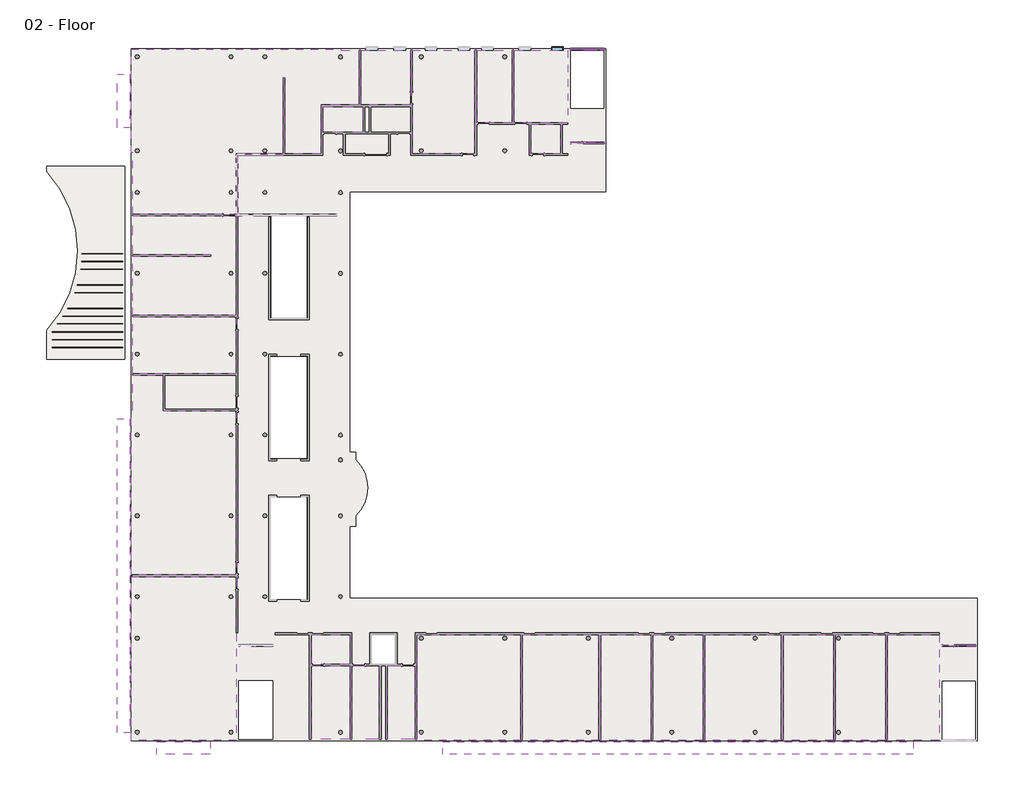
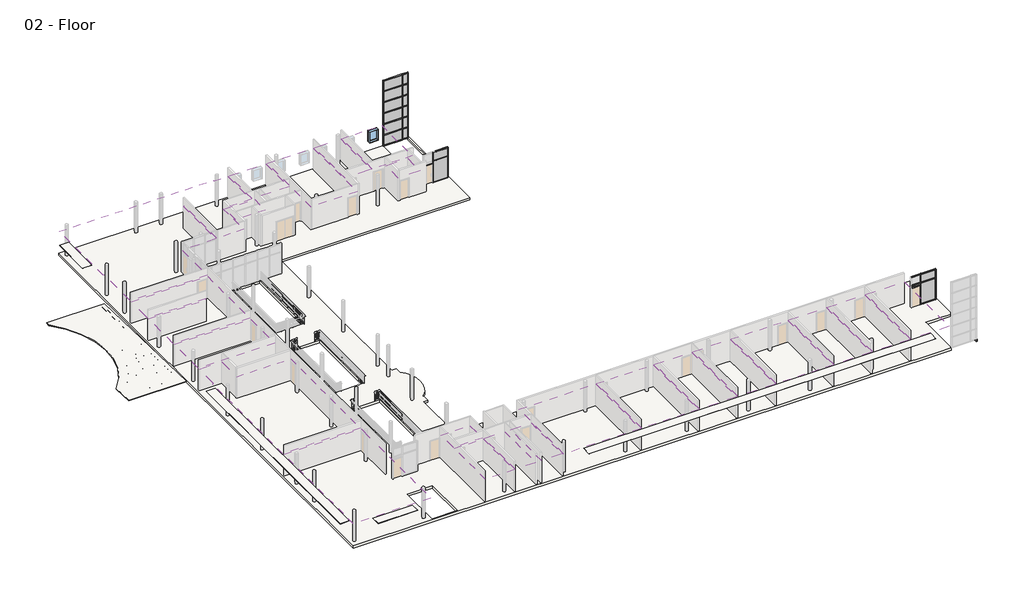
# One storey, part 4 of 5: 55 members, 23 coverings, 16 plates, 5 slabs, 1 beam, 1 roof, 1 window.
"""IFC4 building model written with IfcOpenShell, lengths in millimetres."""

from ifc_helpers import new_model, si_unit, point, frame, frame_2d, origin, place, context, project, spatial, polyline, circle_curve, ellipse_curve, trimmed, segment, composite_curve, outline, extrude, transform, mapped, element, save
from ifc_brep_helpers import plane_surface, revolved_surface, advanced_brep
from components import w_wide_flange_w12x26_481373e5, member_18e22e2d, member_9193c932, member_2b49869a, member_75074519, member_4f18b2ac, member_7a85b04f, member_0b7646a3, member_aaa03826, member_5d67b9fc, member_a50b3cda, member_c327c56d, member_410c6227, member_bcb6a316, member_7bd2cd2c, member_73c23c35, member_6186cc23, member_e7b2e991, member_6c34f49c, member_dff87739, member_76223ac8, system_panel_glazed_ac179f57, system_panel_glazed_576e2b42, system_panel_glazed_d796fc41, system_panel_glazed_17912afe, system_panel_glazed_bb2f95a6, system_panel_glazed_de38c793, system_panel_glazed_3fe504bb, system_panel_glazed_00df446d, window_dfee3f32

model = new_model("IFC4")

# Units and contexts
model_context = context("Model", 3, world=origin())
ifc_project = project(units=[si_unit("LENGTHUNIT", "METRE", prefix="MILLI")], contexts=[model_context])

# Site, building, storey
site = spatial("IfcSite", under=ifc_project)
building = spatial("IfcBuilding", under=site)
storey = spatial("IfcBuildingStorey", under=building, Name="02 - Floor", Elevation=3657.6)

# Beam
placement = place(None, origin())
w_wide_flange_w12x26_shape = w_wide_flange_w12x26_481373e5(model_context)
element("IfcBeam", 1, ObjectType="W-Wide Flange : W12X26", at=placement, inside=storey, context=model_context, shape_type="MappedRepresentation", body=[
    mapped(w_wide_flange_w12x26_shape, transform((-6018.8792524, 30981.9242436, 3911.1226133), x_axis=(0.0, -0.9995616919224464, 0.029604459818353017), y_axis=(1.0, 0.0, 0.0), z_axis=(0.0, 0.029604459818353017, 0.9995616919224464))),
])

# Coverings
element("IfcCovering", 2, ObjectType="2' x 2' ACT System", at=placement, inside=storey, context=model_context, shape_type="SweptSolid", body=[
    extrude(outline(polyline([(22086.2207476, 53724.1), (26963.0207476, 53724.1), (26963.0207476, 45672.3), (22086.2207476, 45672.3), (22086.2207476, 53724.1)])), frame((0.0, 0.0, 6096.0), z_axis=(0.0, 0.0, 1.0), x_axis=(1.0, 0.0, 0.0)), (0.0, 0.0, 1.0), 57.15),
])
element("IfcCovering", 3, ObjectType="2' x 2' ACT System", at=placement, inside=storey, context=model_context, shape_type="SweptSolid", body=[
    extrude(outline(polyline([(18073.0207476, 49478.3000002), (18073.0207476, 53724.1), (21959.2207476, 53724.1), (21959.2207476, 49478.3000002), (18073.0207476, 49478.3000002)])), frame((0.0, 0.0, 6096.0), z_axis=(0.0, 0.0, 1.0), x_axis=(1.0, 0.0, 0.0)), (0.0, 0.0, 1.0), 57.15),
])
element("IfcCovering", 4, ObjectType="2' x 2' ACT System", at=placement, inside=storey, context=model_context, shape_type="SweptSolid", body=[
    extrude(outline(polyline([(178.7207476, 53825.7), (16485.5207476, 53825.7), (16485.5207476, 53724.1), (17946.0207476, 53724.1), (17946.0207476, 49478.3000002), (14974.2207476, 49478.3000002), (14974.2207476, 45672.3), (12129.4207476, 45672.3), (12129.4207476, 51599.2000002), (12002.4207476, 51599.2000002), (12002.4207476, 45608.8), (8421.0207476, 45608.8), (8421.0207476, 40960.6), (280.3207476, 40960.6), (280.3207476, 45735.8), (178.7207476, 45735.8), (178.7207476, 53825.7)])), frame((0.0, 0.0, 6096.0), z_axis=(0.0, 0.0, 1.0), x_axis=(1.0, 0.0, 0.0)), (0.0, 0.0, 1.0), 57.15),
])
element("IfcCovering", 5, ObjectType="2' x 2' ACT System", at=placement, inside=storey, context=model_context, shape_type="SweptSolid", body=[
    extrude(outline(polyline([(6387.9410974, 37798.3), (280.3207476, 37798.3), (280.3207476, 40833.6), (8357.5207476, 40833.6), (8357.5207476, 33086.6), (280.3207476, 33086.6), (280.3207476, 37671.3), (6387.9410974, 37671.3), (6387.9410974, 37798.3)])), frame((0.0, 0.0, 6096.0), z_axis=(0.0, 0.0, 1.0), x_axis=(1.0, 0.0, 0.0)), (0.0, 0.0, 1.0), 57.15),
])
element("IfcCovering", 6, ObjectType="2' x 2' ACT System", at=placement, inside=storey, context=model_context, shape_type="SweptSolid", body=[
    extrude(outline(polyline([(8357.5207476, 28527.3), (280.3207476, 28527.3), (280.3207476, 32959.6), (8357.5207476, 32959.6), (8357.5207476, 28527.3)])), frame((0.0, 0.0, 6096.0), z_axis=(0.0, 0.0, 1.0), x_axis=(1.0, 0.0, 0.0)), (0.0, 0.0, 1.0), 57.15),
])
element("IfcCovering", 7, ObjectType="2' x 2' ACT System", at=placement, inside=storey, context=model_context, shape_type="SweptSolid", body=[
    extrude(outline(polyline([(178.7207476, 12855.5), (178.7207476, 25695.2), (280.3207476, 25695.2), (280.3207476, 28400.3), (2655.2207476, 28400.3), (2655.2207476, 25631.7), (8357.5207476, 25631.7), (8357.5207476, 12855.5), (178.7207476, 12855.5)])), frame((0.0, 0.0, 6096.0), z_axis=(0.0, 0.0, 1.0), x_axis=(1.0, 0.0, 0.0)), (0.0, 0.0, 1.0), 57.15),
])
element("IfcCovering", 8, ObjectType="2' x 2' ACT System", at=placement, inside=storey, context=model_context, shape_type="SweptSolid", body=[
    extrude(outline(polyline([(8357.5207476, -47.7), (178.7207476, -47.7), (178.7207476, 12728.5), (8357.5207476, 12728.5), (8357.5207476, 9477.3), (8357.5207476, -47.7)])), frame((0.0, 0.0, 6096.0), z_axis=(0.0, 0.0, 1.0), x_axis=(1.0, 0.0, 0.0)), (0.0, 0.0, 1.0), 57.15),
])
element("IfcCovering", 9, ObjectType="2' x 2' ACT System", at=placement, inside=storey, context=model_context, shape_type="SweptSolid", body=[
    extrude(outline(polyline([(17234.8207476, 5768.9), (17234.8207476, 53.9), (14186.8207476, 53.9), (14186.8207476, 5768.9), (17234.8207476, 5768.9)])), frame((0.0, 0.0, 6096.0), z_axis=(0.0, 0.0, 1.0), x_axis=(1.0, 0.0, 0.0)), (0.0, 0.0, 1.0), 57.15),
])
element("IfcCovering", 10, ObjectType="2' x 2' ACT System", at=placement, inside=storey, context=model_context, shape_type="SweptSolid", body=[
    extrude(outline(polyline([(14186.8207476, 8207.3), (17234.8207476, 8207.3), (17234.8207476, 5895.9), (14186.8207476, 5895.9), (14186.8207476, 8207.3)])), frame((0.0, 0.0, 6096.0), z_axis=(0.0, 0.0, 1.0), x_axis=(1.0, 0.0, 0.0)), (0.0, 0.0, 1.0), 57.15),
])
element("IfcCovering", 11, ObjectType="2' x 2' ACT System", at=placement, inside=storey, context=model_context, shape_type="SweptSolid", body=[
    extrude(outline(polyline([(19520.8207476, 53.9), (17361.8207476, 53.9), (17361.8207476, 5768.9), (19520.8207476, 5768.9), (19520.8207476, 53.9)])), frame((0.0, 0.0, 6096.0), z_axis=(0.0, 0.0, 1.0), x_axis=(1.0, 0.0, 0.0)), (0.0, 0.0, 1.0), 57.15),
])
element("IfcCovering", 12, ObjectType="2' x 2' ACT System", at=placement, inside=storey, context=model_context, shape_type="SweptSolid", body=[
    extrude(outline(polyline([(22302.1207476, 5768.9), (22302.1207476, 53.9), (20130.4207476, 53.9), (20130.4207476, 5768.9), (22302.1207476, 5768.9)])), frame((0.0, 0.0, 6096.0), z_axis=(0.0, 0.0, 1.0), x_axis=(1.0, 0.0, 0.0)), (0.0, 0.0, 1.0), 57.15),
])
element("IfcCovering", 13, ObjectType="2' x 2' ACT System", at=placement, inside=storey, context=model_context, shape_type="SweptSolid", body=[
    extrude(outline(polyline([(30531.7207476, 8207.3), (30531.7207476, -47.7), (22429.1207476, -47.7), (22429.1207476, 8207.3), (30531.7207476, 8207.3)])), frame((0.0, 0.0, 6096.0), z_axis=(0.0, 0.0, 1.0), x_axis=(1.0, 0.0, 0.0)), (0.0, 0.0, 1.0), 57.15),
])
element("IfcCovering", 14, ObjectType="2' x 2' ACT System", at=placement, inside=storey, context=model_context, shape_type="SweptSolid", body=[
    extrude(outline(polyline([(36627.7207476, 8207.3), (36627.7207476, -47.7), (30658.7207476, -47.7), (30658.7207476, 8207.3), (36627.7207476, 8207.3)])), frame((0.0, 0.0, 6096.0), z_axis=(0.0, 0.0, 1.0), x_axis=(1.0, 0.0, 0.0)), (0.0, 0.0, 1.0), 57.15),
])
element("IfcCovering", 15, ObjectType="2' x 2' ACT System", at=placement, inside=storey, context=model_context, shape_type="SweptSolid", body=[
    extrude(outline(polyline([(40691.7207476, 8207.3), (40691.7207476, -47.7), (36754.7207476, -47.7), (36754.7207476, 8207.3), (40691.7207476, 8207.3)])), frame((0.0, 0.0, 6096.0), z_axis=(0.0, 0.0, 1.0), x_axis=(1.0, 0.0, 0.0)), (0.0, 0.0, 1.0), 57.15),
])
element("IfcCovering", 16, ObjectType="2' x 2' ACT System", at=placement, inside=storey, context=model_context, shape_type="SweptSolid", body=[
    extrude(outline(polyline([(44755.7207476, 8207.3), (44755.7207476, -47.7), (40818.7207476, -47.7), (40818.7207476, 8207.3), (44755.7207476, 8207.3)])), frame((0.0, 0.0, 6096.0), z_axis=(0.0, 0.0, 1.0), x_axis=(1.0, 0.0, 0.0)), (0.0, 0.0, 1.0), 57.15),
])
element("IfcCovering", 17, ObjectType="2' x 2' ACT System", at=placement, inside=storey, context=model_context, shape_type="SweptSolid", body=[
    extrude(outline(polyline([(50851.7207476, 8207.3), (50851.7207476, -47.7), (44882.7207476, -47.7), (44882.7207476, 8207.3), (50851.7207476, 8207.3)])), frame((0.0, 0.0, 6096.0), z_axis=(0.0, 0.0, 1.0), x_axis=(1.0, 0.0, 0.0)), (0.0, 0.0, 1.0), 57.15),
])
element("IfcCovering", 18, ObjectType="2' x 2' ACT System", at=placement, inside=storey, context=model_context, shape_type="SweptSolid", body=[
    extrude(outline(polyline([(54915.7207476, 8207.3), (54915.7207476, -47.7), (50978.7207476, -47.7), (50978.7207476, 8207.3), (54915.7207476, 8207.3)])), frame((0.0, 0.0, 6096.0), z_axis=(0.0, 0.0, 1.0), x_axis=(1.0, 0.0, 0.0)), (0.0, 0.0, 1.0), 57.15),
])
element("IfcCovering", 19, ObjectType="2' x 2' ACT System", at=placement, inside=storey, context=model_context, shape_type="SweptSolid", body=[
    extrude(outline(polyline([(58979.7207476, 8207.3), (58979.7207476, -47.7), (55042.7207476, -47.7), (55042.7207476, 8207.3), (58979.7207476, 8207.3)])), frame((0.0, 0.0, 6096.0), z_axis=(0.0, 0.0, 1.0), x_axis=(1.0, 0.0, 0.0)), (0.0, 0.0, 1.0), 57.15),
])
element("IfcCovering", 20, ObjectType="2' x 2' ACT System", at=placement, inside=storey, context=model_context, shape_type="SweptSolid", body=[
    extrude(outline(polyline([(63145.3207476, 8207.3), (63145.3207476, -47.7), (59106.7207476, -47.7), (59106.7207476, 8207.3), (63145.3207476, 8207.3)])), frame((0.0, 0.0, 6096.0), z_axis=(0.0, 0.0, 1.0), x_axis=(1.0, 0.0, 0.0)), (0.0, 0.0, 1.0), 57.15),
])
element("IfcCovering", 21, ObjectType="2' x 2' ACT System", at=placement, inside=storey, context=model_context, shape_type="SweptSolid", body=[
    extrude(outline(polyline([(27090.0207476, 53724.1), (29858.6207476, 53724.1), (29858.6207476, 48110.7), (27090.0207476, 48110.7), (27090.0207476, 53724.1)])), frame((0.0, 0.0, 6096.0), z_axis=(0.0, 0.0, 1.0), x_axis=(1.0, 0.0, 0.0)), (0.0, 0.0, 1.0), 57.15),
])
element("IfcCovering", 22, ObjectType="2' x 2' ACT System", at=placement, inside=storey, context=model_context, shape_type="SweptSolid", body=[
    extrude(outline(polyline([(34202.0207476, 48110.7), (29985.6207476, 48110.7), (29985.6207476, 53724.1), (34202.0207476, 53724.1), (34202.0207476, 48110.7)])), frame((0.0, 0.0, 6096.0), z_axis=(0.0, 0.0, 1.0), x_axis=(1.0, 0.0, 0.0)), (0.0, 0.0, 1.0), 57.15),
])
element("IfcCovering", 23, ObjectType="2' x 2' ACT System", at=placement, inside=storey, context=model_context, shape_type="SweptSolid", body=[
    extrude(outline(polyline([(33630.5207476, 45672.3), (31319.1207476, 45672.3), (31319.1207476, 47983.7), (33630.5207476, 47983.7), (33630.5207476, 45672.3)])), frame((0.0, 0.0, 6096.0), z_axis=(0.0, 0.0, 1.0), x_axis=(1.0, 0.0, 0.0)), (0.0, 0.0, 1.0), 57.15),
])
element("IfcCovering", 24, ObjectType="2' x 2' ACT System", at=placement, inside=storey, context=model_context, shape_type="SweptSolid", body=[
    extrude(outline(polyline([(18238.1207476, 47344.7000002), (15101.2207476, 47344.7000002), (15101.2207476, 49351.3000002), (18238.1207476, 49351.3000002), (18238.1207476, 47344.7000002)])), frame((0.0, 0.0, 6096.0), z_axis=(0.0, 0.0, 1.0), x_axis=(1.0, 0.0, 0.0)), (0.0, 0.0, 1.0), 57.15),
    extrude(outline(polyline([(21959.2207476, 49351.3000002), (21959.2207476, 47344.7000002), (18847.7207476, 47344.7000002), (18847.7207476, 49351.3000002), (21959.2207476, 49351.3000002)])), frame((0.0, 0.0, 6096.0), z_axis=(0.0, 0.0, 1.0), x_axis=(1.0, 0.0, 0.0)), (0.0, 0.0, 1.0), 57.15),
])

# Members
member_shape = member_18e22e2d(model_context)
element("IfcMember", 25, ObjectType="Rectangular Mullion : 2.5\" x 5\" rectangular", at=placement, inside=storey, context=model_context, shape_type="MappedRepresentation", body=[
    mapped(member_shape, transform((35414.8707476, 46523.2, 6096.0), x_axis=(1.0, 0.0, 0.0), y_axis=(0.0, -1.0, 0.0), z_axis=(0.0, 0.0, -1.0))),
])
element("IfcMember", 26, ObjectType="Rectangular Mullion : 2.5\" x 5\" rectangular", at=placement, inside=storey, context=model_context, shape_type="MappedRepresentation", body=[
    mapped(member_shape, transform((64358.1707476, 7356.4, 6096.0), x_axis=(1.0, 0.0, 0.0), y_axis=(0.0, -1.0, 0.0), z_axis=(0.0, 0.0, -1.0))),
])
member_2_shape = member_9193c932(model_context)
element("IfcMember", 27, ObjectType="Rectangular Mullion : 2.5\" x 5\" rectangular", at=placement, inside=storey, context=model_context, shape_type="MappedRepresentation", body=[
    mapped(member_2_shape, transform((66002.8207476, 7356.4, 6096.0), x_axis=(1.0, 0.0, 0.0), y_axis=(0.0, -1.0, 0.0), z_axis=(0.0, 0.0, -1.0))),
])
element("IfcMember", 28, ObjectType="Rectangular Mullion : 2.5\" x 5\" rectangular", at=placement, inside=storey, context=model_context, shape_type="MappedRepresentation", body=[
    mapped(member_2_shape, transform((37046.8207476, 46523.2, 6096.0), x_axis=(1.0, 0.0, 0.0), y_axis=(0.0, -1.0, 0.0), z_axis=(0.0, 0.0, -1.0))),
])
member_3_shape = member_2b49869a(model_context)
element("IfcMember", 29, ObjectType="Rectangular Mullion : 2.5\" x 5\" rectangular", at=placement, inside=storey, context=model_context, shape_type="MappedRepresentation", body=[
    mapped(member_3_shape, transform((36437.2207476, 53825.7, 9753.6), x_axis=(1.0, 0.0, 0.0), y_axis=(0.0, -1.0, 0.0), z_axis=(0.0, 0.0, -1.0))),
])
member_4_shape = member_75074519(model_context)
element("IfcMember", 30, ObjectType="Rectangular Mullion : 2.5\" x 5\" rectangular", at=placement, inside=storey, context=model_context, shape_type="MappedRepresentation", body=[
    mapped(member_4_shape, transform((34405.2207476, 53825.7, 10972.8), x_axis=(-1.0, 0.0, 0.0), y_axis=(0.0, -1.0, 0.0), z_axis=(0.0, 0.0, 1.0))),
])
element("IfcMember", 31, ObjectType="Rectangular Mullion : 2.5\" x 5\" rectangular", at=placement, inside=storey, context=model_context, shape_type="MappedRepresentation", body=[
    mapped(member_4_shape, transform((37046.8207476, 53825.7, 9753.6), x_axis=(1.0, 0.0, 0.0), y_axis=(0.0, -1.0, 0.0), z_axis=(0.0, 0.0, -1.0))),
])
member_5_shape = member_4f18b2ac(model_context)
element("IfcMember", 32, ObjectType="Rectangular Mullion : 2.5\" x 5\" rectangular", at=placement, inside=storey, context=model_context, shape_type="MappedRepresentation", body=[
    mapped(member_5_shape, transform((34468.7207476, 53825.7, 3657.6), x_axis=(0.0, 0.0, -1.0), y_axis=(0.0, -1.0, 0.0), z_axis=(-1.0, 0.0, 0.0))),
])
element("IfcMember", 33, ObjectType="Rectangular Mullion : 2.5\" x 5\" rectangular", at=placement, inside=storey, context=model_context, shape_type="MappedRepresentation", body=[
    mapped(member_5_shape, transform((36405.4707476, 53825.7, 10972.8), x_axis=(0.0, 0.0, 1.0), y_axis=(0.0, -1.0, 0.0), z_axis=(1.0, 0.0, 0.0))),
])
member_6_shape = member_7a85b04f(model_context)
element("IfcMember", 34, ObjectType="Rectangular Mullion : 2.5\" x 5\" rectangular", at=placement, inside=storey, context=model_context, shape_type="MappedRepresentation", body=[
    mapped(member_6_shape, transform((36405.4707476, 53825.7, 4876.8), x_axis=(0.0, 0.0, 1.0), y_axis=(0.0, -1.0, 0.0), z_axis=(1.0, 0.0, 0.0))),
])
element("IfcMember", 35, ObjectType="Rectangular Mullion : 2.5\" x 5\" rectangular", at=placement, inside=storey, context=model_context, shape_type="MappedRepresentation", body=[
    mapped(member_6_shape, transform((36405.4707476, 53825.7, 6096.0), x_axis=(0.0, 0.0, 1.0), y_axis=(0.0, -1.0, 0.0), z_axis=(1.0, 0.0, 0.0))),
])
element("IfcMember", 36, ObjectType="Rectangular Mullion : 2.5\" x 5\" rectangular", at=placement, inside=storey, context=model_context, shape_type="MappedRepresentation", body=[
    mapped(member_6_shape, transform((36405.4707476, 53825.7, 7315.2), x_axis=(0.0, 0.0, 1.0), y_axis=(0.0, -1.0, 0.0), z_axis=(1.0, 0.0, 0.0))),
])
element("IfcMember", 37, ObjectType="Rectangular Mullion : 2.5\" x 5\" rectangular", at=placement, inside=storey, context=model_context, shape_type="MappedRepresentation", body=[
    mapped(member_6_shape, transform((36405.4707476, 53825.7, 8534.4), x_axis=(0.0, 0.0, 1.0), y_axis=(0.0, -1.0, 0.0), z_axis=(1.0, 0.0, 0.0))),
])
element("IfcMember", 38, ObjectType="Rectangular Mullion : 2.5\" x 5\" rectangular", at=placement, inside=storey, context=model_context, shape_type="MappedRepresentation", body=[
    mapped(member_6_shape, transform((36405.4707476, 53825.7, 9753.6), x_axis=(0.0, 0.0, 1.0), y_axis=(0.0, -1.0, 0.0), z_axis=(1.0, 0.0, 0.0))),
])
element("IfcMember", 39, ObjectType="Rectangular Mullion : 2.5\" x 5\" rectangular", at=placement, inside=storey, context=model_context, shape_type="MappedRepresentation", body=[
    mapped(member_3_shape, transform((36437.2207476, 53825.7, 3657.6), x_axis=(1.0, 0.0, 0.0), y_axis=(0.0, -1.0, 0.0), z_axis=(0.0, 0.0, -1.0))),
])
element("IfcMember", 40, ObjectType="Rectangular Mullion : 2.5\" x 5\" rectangular", at=placement, inside=storey, context=model_context, shape_type="MappedRepresentation", body=[
    mapped(member_3_shape, transform((36437.2207476, 53825.7, 4876.8), x_axis=(1.0, 0.0, 0.0), y_axis=(0.0, -1.0, 0.0), z_axis=(0.0, 0.0, -1.0))),
])
element("IfcMember", 41, ObjectType="Rectangular Mullion : 2.5\" x 5\" rectangular", at=placement, inside=storey, context=model_context, shape_type="MappedRepresentation", body=[
    mapped(member_3_shape, transform((36437.2207476, 53825.7, 6096.0), x_axis=(1.0, 0.0, 0.0), y_axis=(0.0, -1.0, 0.0), z_axis=(0.0, 0.0, -1.0))),
])
element("IfcMember", 42, ObjectType="Rectangular Mullion : 2.5\" x 5\" rectangular", at=placement, inside=storey, context=model_context, shape_type="MappedRepresentation", body=[
    mapped(member_3_shape, transform((36437.2207476, 53825.7, 7315.2), x_axis=(1.0, 0.0, 0.0), y_axis=(0.0, -1.0, 0.0), z_axis=(0.0, 0.0, -1.0))),
])
element("IfcMember", 43, ObjectType="Rectangular Mullion : 2.5\" x 5\" rectangular", at=placement, inside=storey, context=model_context, shape_type="MappedRepresentation", body=[
    mapped(member_3_shape, transform((36437.2207476, 53825.7, 8534.4), x_axis=(1.0, 0.0, 0.0), y_axis=(0.0, -1.0, 0.0), z_axis=(0.0, 0.0, -1.0))),
])
member_7_shape = member_0b7646a3(model_context)
element("IfcMember", 44, ObjectType="Rectangular Mullion : 2.5\" x 5\" rectangular", at=placement, inside=storey, context=model_context, shape_type="MappedRepresentation", body=[
    mapped(member_7_shape, transform((36983.3207476, 53825.7, 10972.8), x_axis=(0.0, 0.0, 1.0), y_axis=(0.0, -1.0, 0.0), z_axis=(1.0, 0.0, 0.0))),
])
element("IfcMember", 45, ObjectType="Rectangular Mullion : 2.5\" x 5\" rectangular", at=placement, inside=storey, context=model_context, shape_type="MappedRepresentation", body=[
    mapped(member_7_shape, transform((36468.9707476, 53825.7, 3657.6), x_axis=(0.0, 0.0, -1.0), y_axis=(0.0, -1.0, 0.0), z_axis=(-1.0, 0.0, 0.0))),
])
member_8_shape = member_aaa03826(model_context)
element("IfcMember", 46, ObjectType="Rectangular Mullion : 2.5\" x 5\" rectangular", at=placement, inside=storey, context=model_context, shape_type="MappedRepresentation", body=[
    mapped(member_8_shape, transform((36983.3207476, 53825.7, 4876.8), x_axis=(0.0, 0.0, 1.0), y_axis=(0.0, -1.0, 0.0), z_axis=(1.0, 0.0, 0.0))),
])
element("IfcMember", 47, ObjectType="Rectangular Mullion : 2.5\" x 5\" rectangular", at=placement, inside=storey, context=model_context, shape_type="MappedRepresentation", body=[
    mapped(member_8_shape, transform((36983.3207476, 53825.7, 6096.0), x_axis=(0.0, 0.0, 1.0), y_axis=(0.0, -1.0, 0.0), z_axis=(1.0, 0.0, 0.0))),
])
element("IfcMember", 48, ObjectType="Rectangular Mullion : 2.5\" x 5\" rectangular", at=placement, inside=storey, context=model_context, shape_type="MappedRepresentation", body=[
    mapped(member_8_shape, transform((36983.3207476, 53825.7, 7315.2), x_axis=(0.0, 0.0, 1.0), y_axis=(0.0, -1.0, 0.0), z_axis=(1.0, 0.0, 0.0))),
])
element("IfcMember", 49, ObjectType="Rectangular Mullion : 2.5\" x 5\" rectangular", at=placement, inside=storey, context=model_context, shape_type="MappedRepresentation", body=[
    mapped(member_8_shape, transform((36983.3207476, 53825.7, 8534.4), x_axis=(0.0, 0.0, 1.0), y_axis=(0.0, -1.0, 0.0), z_axis=(1.0, 0.0, 0.0))),
])
element("IfcMember", 50, ObjectType="Rectangular Mullion : 2.5\" x 5\" rectangular", at=placement, inside=storey, context=model_context, shape_type="MappedRepresentation", body=[
    mapped(member_8_shape, transform((36983.3207476, 53825.7, 9753.6), x_axis=(0.0, 0.0, 1.0), y_axis=(0.0, -1.0, 0.0), z_axis=(1.0, 0.0, 0.0))),
])
element("IfcMember", 51, ObjectType="Rectangular Mullion : 2.5\" x 5\" rectangular", at=placement, inside=storey, context=model_context, shape_type="MappedRepresentation", body=[
    mapped(member_4_shape, transform((37046.8207476, 53825.7, 3657.6), x_axis=(1.0, 0.0, 0.0), y_axis=(0.0, -1.0, 0.0), z_axis=(0.0, 0.0, -1.0))),
])
element("IfcMember", 52, ObjectType="Rectangular Mullion : 2.5\" x 5\" rectangular", at=placement, inside=storey, context=model_context, shape_type="MappedRepresentation", body=[
    mapped(member_4_shape, transform((37046.8207476, 53825.7, 4876.8), x_axis=(1.0, 0.0, 0.0), y_axis=(0.0, -1.0, 0.0), z_axis=(0.0, 0.0, -1.0))),
])
element("IfcMember", 53, ObjectType="Rectangular Mullion : 2.5\" x 5\" rectangular", at=placement, inside=storey, context=model_context, shape_type="MappedRepresentation", body=[
    mapped(member_4_shape, transform((37046.8207476, 53825.7, 6096.0), x_axis=(1.0, 0.0, 0.0), y_axis=(0.0, -1.0, 0.0), z_axis=(0.0, 0.0, -1.0))),
])
element("IfcMember", 54, ObjectType="Rectangular Mullion : 2.5\" x 5\" rectangular", at=placement, inside=storey, context=model_context, shape_type="MappedRepresentation", body=[
    mapped(member_4_shape, transform((37046.8207476, 53825.7, 7315.2), x_axis=(1.0, 0.0, 0.0), y_axis=(0.0, -1.0, 0.0), z_axis=(0.0, 0.0, -1.0))),
])
element("IfcMember", 55, ObjectType="Rectangular Mullion : 2.5\" x 5\" rectangular", at=placement, inside=storey, context=model_context, shape_type="MappedRepresentation", body=[
    mapped(member_4_shape, transform((37046.8207476, 53825.7, 8534.4), x_axis=(1.0, 0.0, 0.0), y_axis=(0.0, -1.0, 0.0), z_axis=(0.0, 0.0, -1.0))),
])
element("IfcMember", 56, ObjectType="Rectangular Mullion : 2.5\" x 5\" rectangular", at=placement, inside=storey, context=model_context, shape_type="MappedRepresentation", body=[
    mapped(member_4_shape, transform((34405.2207476, 53825.7, 4876.8), x_axis=(-1.0, 0.0, 0.0), y_axis=(0.0, -1.0, 0.0), z_axis=(0.0, 0.0, 1.0))),
])
element("IfcMember", 57, ObjectType="Rectangular Mullion : 2.5\" x 5\" rectangular", at=placement, inside=storey, context=model_context, shape_type="MappedRepresentation", body=[
    mapped(member_4_shape, transform((34405.2207476, 53825.7, 6096.0), x_axis=(-1.0, 0.0, 0.0), y_axis=(0.0, -1.0, 0.0), z_axis=(0.0, 0.0, 1.0))),
])
element("IfcMember", 58, ObjectType="Rectangular Mullion : 2.5\" x 5\" rectangular", at=placement, inside=storey, context=model_context, shape_type="MappedRepresentation", body=[
    mapped(member_4_shape, transform((34405.2207476, 53825.7, 7315.2), x_axis=(-1.0, 0.0, 0.0), y_axis=(0.0, -1.0, 0.0), z_axis=(0.0, 0.0, 1.0))),
])
element("IfcMember", 59, ObjectType="Rectangular Mullion : 2.5\" x 5\" rectangular", at=placement, inside=storey, context=model_context, shape_type="MappedRepresentation", body=[
    mapped(member_4_shape, transform((34405.2207476, 53825.7, 8534.4), x_axis=(-1.0, 0.0, 0.0), y_axis=(0.0, -1.0, 0.0), z_axis=(0.0, 0.0, 1.0))),
])
element("IfcMember", 60, ObjectType="Rectangular Mullion : 2.5\" x 5\" rectangular", at=placement, inside=storey, context=model_context, shape_type="MappedRepresentation", body=[
    mapped(member_4_shape, transform((34405.2207476, 53825.7, 9753.6), x_axis=(-1.0, 0.0, 0.0), y_axis=(0.0, -1.0, 0.0), z_axis=(0.0, 0.0, 1.0))),
])
member_9_shape = member_5d67b9fc(model_context)
element("IfcMember", 61, ObjectType="Rectangular Mullion : 2.5\" x 5\" rectangular", at=placement, inside=storey, context=model_context, shape_type="MappedRepresentation", body=[
    mapped(member_9_shape, transform((35414.8707476, 46523.2, 5822.95), x_axis=(1.0, 0.0, 0.0), y_axis=(0.0, -1.0, 0.0), z_axis=(0.0, 0.0, -1.0))),
])
member_10_shape = member_a50b3cda(model_context)
element("IfcMember", 62, ObjectType="Rectangular Mullion : 2.5\" x 5\" rectangular", at=placement, inside=storey, context=model_context, shape_type="MappedRepresentation", body=[
    mapped(member_10_shape, transform((37046.8207476, 46523.2, 3657.6), x_axis=(1.0, 0.0, 0.0), y_axis=(0.0, -1.0, 0.0), z_axis=(0.0, 0.0, -1.0))),
])
member_11_shape = member_c327c56d(model_context)
element("IfcMember", 63, ObjectType="Rectangular Mullion : 2.5\" x 5\" rectangular", at=placement, inside=storey, context=model_context, shape_type="MappedRepresentation", body=[
    mapped(member_11_shape, transform((37046.8207476, 46523.2, 5822.95), x_axis=(1.0, 0.0, 0.0), y_axis=(0.0, -1.0, 0.0), z_axis=(0.0, 0.0, -1.0))),
])
member_12_shape = member_410c6227(model_context)
element("IfcMember", 64, ObjectType="Rectangular Mullion : 2.5\" x 5\" rectangular", at=placement, inside=storey, context=model_context, shape_type="MappedRepresentation", body=[
    mapped(member_12_shape, transform((35383.1207476, 46523.2, 5822.95), x_axis=(0.0, 0.0, 1.0), y_axis=(0.0, -1.0, 0.0), z_axis=(1.0, 0.0, 0.0))),
])
member_13_shape = member_bcb6a316(model_context)
element("IfcMember", 65, ObjectType="Rectangular Mullion : 2.5\" x 5\" rectangular", at=placement, inside=storey, context=model_context, shape_type="MappedRepresentation", body=[
    mapped(member_13_shape, transform((36983.3207476, 46523.2, 7061.2), x_axis=(0.0, 0.0, 1.0), y_axis=(0.0, -1.0, 0.0), z_axis=(1.0, 0.0, 0.0))),
])
member_14_shape = member_7bd2cd2c(model_context)
element("IfcMember", 66, ObjectType="Rectangular Mullion : 2.5\" x 5\" rectangular", at=placement, inside=storey, context=model_context, shape_type="MappedRepresentation", body=[
    mapped(member_14_shape, transform((36983.3207476, 46523.2, 6096.0), x_axis=(0.0, 0.0, 1.0), y_axis=(0.0, -1.0, 0.0), z_axis=(1.0, 0.0, 0.0))),
])
element("IfcMember", 67, ObjectType="Rectangular Mullion : 2.5\" x 5\" rectangular", at=placement, inside=storey, context=model_context, shape_type="MappedRepresentation", body=[
    mapped(member_12_shape, transform((64326.4207476, 7356.4, 6096.0), x_axis=(0.0, 0.0, 1.0), y_axis=(0.0, -1.0, 0.0), z_axis=(1.0, 0.0, 0.0))),
])
element("IfcMember", 68, ObjectType="Rectangular Mullion : 2.5\" x 5\" rectangular", at=placement, inside=storey, context=model_context, shape_type="MappedRepresentation", body=[
    mapped(member_12_shape, transform((64326.4207476, 7356.4, 5822.95), x_axis=(0.0, 0.0, 1.0), y_axis=(0.0, -1.0, 0.0), z_axis=(1.0, 0.0, 0.0))),
])
member_15_shape = member_73c23c35(model_context)
element("IfcMember", 69, ObjectType="Rectangular Mullion : 2.5\" x 5\" rectangular", at=placement, inside=storey, context=model_context, shape_type="MappedRepresentation", body=[
    mapped(member_15_shape, transform((64326.4207476, 7356.4, 7061.2), x_axis=(0.0, 0.0, 1.0), y_axis=(0.0, -1.0, 0.0), z_axis=(1.0, 0.0, 0.0))),
])
member_16_shape = member_6186cc23(model_context)
element("IfcMember", 70, ObjectType="Rectangular Mullion : 2.5\" x 5\" rectangular", at=placement, inside=storey, context=model_context, shape_type="MappedRepresentation", body=[
    mapped(member_16_shape, transform((64358.1707476, 7356.4, 3657.6), x_axis=(1.0, 0.0, 0.0), y_axis=(0.0, -1.0, 0.0), z_axis=(0.0, 0.0, -1.0))),
])
element("IfcMember", 71, ObjectType="Rectangular Mullion : 2.5\" x 5\" rectangular", at=placement, inside=storey, context=model_context, shape_type="MappedRepresentation", body=[
    mapped(member_9_shape, transform((64358.1707476, 7356.4, 5822.95), x_axis=(1.0, 0.0, 0.0), y_axis=(0.0, -1.0, 0.0), z_axis=(0.0, 0.0, -1.0))),
])
element("IfcMember", 72, ObjectType="Rectangular Mullion : 2.5\" x 5\" rectangular", at=placement, inside=storey, context=model_context, shape_type="MappedRepresentation", body=[
    mapped(member_10_shape, transform((66002.8207476, 7356.4, 3657.6), x_axis=(1.0, 0.0, 0.0), y_axis=(0.0, -1.0, 0.0), z_axis=(0.0, 0.0, -1.0))),
])
element("IfcMember", 73, ObjectType="Rectangular Mullion : 2.5\" x 5\" rectangular", at=placement, inside=storey, context=model_context, shape_type="MappedRepresentation", body=[
    mapped(member_11_shape, transform((66002.8207476, 7356.4, 5822.95), x_axis=(1.0, 0.0, 0.0), y_axis=(0.0, -1.0, 0.0), z_axis=(0.0, 0.0, -1.0))),
])
member_17_shape = member_e7b2e991(model_context)
element("IfcMember", 74, ObjectType="Rectangular Mullion : 2.5\" x 5\" rectangular", at=placement, inside=storey, context=model_context, shape_type="MappedRepresentation", body=[
    mapped(member_17_shape, transform((64675.6707476, 7356.4, 3657.6), x_axis=(0.0, 0.0, -1.0), y_axis=(0.0, -1.0, 0.0), z_axis=(-1.0, 0.0, 0.0))),
])
member_18_shape = member_6c34f49c(model_context)
element("IfcMember", 75, ObjectType="Rectangular Mullion : 2.5\" x 5\" rectangular", at=placement, inside=storey, context=model_context, shape_type="MappedRepresentation", body=[
    mapped(member_18_shape, transform((64389.9207476, 7356.4, 3657.6), x_axis=(0.0, 0.0, -1.0), y_axis=(0.0, -1.0, 0.0), z_axis=(-1.0, 0.0, 0.0))),
])
member_19_shape = member_dff87739(model_context)
element("IfcMember", 76, ObjectType="Rectangular Mullion : 2.5\" x 5\" rectangular", at=placement, inside=storey, context=model_context, shape_type="MappedRepresentation", body=[
    mapped(member_19_shape, transform((64675.6707476, 7356.4, 6096.0), x_axis=(0.0, 0.0, 1.0), y_axis=(0.0, -1.0, 0.0), z_axis=(1.0, 0.0, 0.0))),
])
member_20_shape = member_76223ac8(model_context)
element("IfcMember", 77, ObjectType="Rectangular Mullion : 2.5\" x 5\" rectangular", at=placement, inside=storey, context=model_context, shape_type="MappedRepresentation", body=[
    mapped(member_20_shape, transform((65939.3207476, 7356.4, 6096.0), x_axis=(0.0, 0.0, 1.0), y_axis=(0.0, -1.0, 0.0), z_axis=(1.0, 0.0, 0.0))),
])
element("IfcMember", 78, ObjectType="Rectangular Mullion : 2.5\" x 5\" rectangular", at=placement, inside=storey, context=model_context, shape_type="MappedRepresentation", body=[
    mapped(member_17_shape, transform((65939.3207476, 7356.4, 7061.2), x_axis=(0.0, 0.0, 1.0), y_axis=(0.0, -1.0, 0.0), z_axis=(1.0, 0.0, 0.0))),
])
element("IfcMember", 79, ObjectType="Rectangular Mullion : 2.5\" x 5\" rectangular", at=placement, inside=storey, context=model_context, shape_type="MappedRepresentation", body=[
    mapped(member_18_shape, transform((64675.6707476, 7356.4, 7061.2), x_axis=(0.0, 0.0, 1.0), y_axis=(0.0, -1.0, 0.0), z_axis=(1.0, 0.0, 0.0))),
])

# Plates
system_panel_glazed_shape = system_panel_glazed_ac179f57(model_context)
element("IfcPlate", 80, ObjectType="System Panel : Glazed", at=placement, inside=storey, context=model_context, shape_type="MappedRepresentation", body=[
    mapped(system_panel_glazed_shape, transform((35437.0957476, 53825.7, 3721.1), x_axis=(1.0, 0.0, 0.0), y_axis=(0.0, 1.0, 0.0), z_axis=(0.0, 0.0, 1.0))),
])
element("IfcPlate", 81, ObjectType="System Panel : Glazed", at=placement, inside=storey, context=model_context, shape_type="MappedRepresentation", body=[
    mapped(system_panel_glazed_shape, transform((35437.0957476, 53825.7, 9785.35), x_axis=(1.0, 0.0, 0.0), y_axis=(0.0, 1.0, 0.0), z_axis=(0.0, 0.0, 1.0))),
])
system_panel_glazed_2_shape = system_panel_glazed_576e2b42(model_context)
element("IfcPlate", 82, ObjectType="System Panel : Glazed", at=placement, inside=storey, context=model_context, shape_type="MappedRepresentation", body=[
    mapped(system_panel_glazed_2_shape, transform((35437.0957476, 53825.7, 4908.55), x_axis=(1.0, 0.0, 0.0), y_axis=(0.0, 1.0, 0.0), z_axis=(0.0, 0.0, 1.0))),
])
element("IfcPlate", 83, ObjectType="System Panel : Glazed", at=placement, inside=storey, context=model_context, shape_type="MappedRepresentation", body=[
    mapped(system_panel_glazed_2_shape, transform((35437.0957476, 53825.7, 6127.75), x_axis=(1.0, 0.0, 0.0), y_axis=(0.0, 1.0, 0.0), z_axis=(0.0, 0.0, 1.0))),
])
element("IfcPlate", 84, ObjectType="System Panel : Glazed", at=placement, inside=storey, context=model_context, shape_type="MappedRepresentation", body=[
    mapped(system_panel_glazed_2_shape, transform((35437.0957476, 53825.7, 7346.95), x_axis=(1.0, 0.0, 0.0), y_axis=(0.0, 1.0, 0.0), z_axis=(0.0, 0.0, 1.0))),
])
element("IfcPlate", 85, ObjectType="System Panel : Glazed", at=placement, inside=storey, context=model_context, shape_type="MappedRepresentation", body=[
    mapped(system_panel_glazed_2_shape, transform((35437.0957476, 53825.7, 8566.15), x_axis=(1.0, 0.0, 0.0), y_axis=(0.0, 1.0, 0.0), z_axis=(0.0, 0.0, 1.0))),
])
system_panel_glazed_3_shape = system_panel_glazed_d796fc41(model_context)
element("IfcPlate", 86, ObjectType="System Panel : Glazed", at=placement, inside=storey, context=model_context, shape_type="MappedRepresentation", body=[
    mapped(system_panel_glazed_3_shape, transform((36726.1457476, 53825.7, 3721.1), x_axis=(1.0, 0.0, 0.0), y_axis=(0.0, 1.0, 0.0), z_axis=(0.0, 0.0, 1.0))),
])
element("IfcPlate", 87, ObjectType="System Panel : Glazed", at=placement, inside=storey, context=model_context, shape_type="MappedRepresentation", body=[
    mapped(system_panel_glazed_3_shape, transform((36726.1457476, 53825.7, 9785.35), x_axis=(1.0, 0.0, 0.0), y_axis=(0.0, 1.0, 0.0), z_axis=(0.0, 0.0, 1.0))),
])
system_panel_glazed_4_shape = system_panel_glazed_17912afe(model_context)
element("IfcPlate", 88, ObjectType="System Panel : Glazed", at=placement, inside=storey, context=model_context, shape_type="MappedRepresentation", body=[
    mapped(system_panel_glazed_4_shape, transform((36726.1457476, 53825.7, 4908.55), x_axis=(1.0, 0.0, 0.0), y_axis=(0.0, 1.0, 0.0), z_axis=(0.0, 0.0, 1.0))),
])
element("IfcPlate", 89, ObjectType="System Panel : Glazed", at=placement, inside=storey, context=model_context, shape_type="MappedRepresentation", body=[
    mapped(system_panel_glazed_4_shape, transform((36726.1457476, 53825.7, 6127.75), x_axis=(1.0, 0.0, 0.0), y_axis=(0.0, 1.0, 0.0), z_axis=(0.0, 0.0, 1.0))),
])
element("IfcPlate", 90, ObjectType="System Panel : Glazed", at=placement, inside=storey, context=model_context, shape_type="MappedRepresentation", body=[
    mapped(system_panel_glazed_4_shape, transform((36726.1457476, 53825.7, 7346.95), x_axis=(1.0, 0.0, 0.0), y_axis=(0.0, 1.0, 0.0), z_axis=(0.0, 0.0, 1.0))),
])
element("IfcPlate", 91, ObjectType="System Panel : Glazed", at=placement, inside=storey, context=model_context, shape_type="MappedRepresentation", body=[
    mapped(system_panel_glazed_4_shape, transform((36726.1457476, 53825.7, 8566.15), x_axis=(1.0, 0.0, 0.0), y_axis=(0.0, 1.0, 0.0), z_axis=(0.0, 0.0, 1.0))),
])
system_panel_glazed_5_shape = system_panel_glazed_bb2f95a6(model_context)
element("IfcPlate", 92, ObjectType="System Panel : Glazed", at=placement, inside=storey, context=model_context, shape_type="MappedRepresentation", body=[
    mapped(system_panel_glazed_5_shape, transform((36214.9707476, 46523.2, 3721.1), x_axis=(1.0, 0.0, 0.0), y_axis=(0.0, 1.0, 0.0), z_axis=(0.0, 0.0, 1.0))),
])
system_panel_glazed_6_shape = system_panel_glazed_de38c793(model_context)
element("IfcPlate", 93, ObjectType="System Panel : Glazed", at=placement, inside=storey, context=model_context, shape_type="MappedRepresentation", body=[
    mapped(system_panel_glazed_6_shape, transform((36214.9707476, 46523.2, 6127.75), x_axis=(1.0, 0.0, 0.0), y_axis=(0.0, 1.0, 0.0), z_axis=(0.0, 0.0, 1.0))),
])
system_panel_glazed_7_shape = system_panel_glazed_3fe504bb(model_context)
element("IfcPlate", 94, ObjectType="System Panel : Glazed", at=placement, inside=storey, context=model_context, shape_type="MappedRepresentation", body=[
    mapped(system_panel_glazed_7_shape, transform((65164.6207476, 7356.4, 6127.75), x_axis=(1.0, 0.0, 0.0), y_axis=(0.0, 1.0, 0.0), z_axis=(0.0, 0.0, 1.0))),
])
system_panel_glazed_8_shape = system_panel_glazed_00df446d(model_context)
element("IfcPlate", 95, ObjectType="System Panel : Glazed", at=placement, inside=storey, context=model_context, shape_type="MappedRepresentation", body=[
    mapped(system_panel_glazed_8_shape, transform((65164.6207476, 7356.4, 3721.1), x_axis=(1.0, 0.0, 0.0), y_axis=(0.0, 1.0, 0.0), z_axis=(0.0, 0.0, 1.0))),
])

# Roof
element("IfcRoof", 96, ObjectType="Generic - 3\"", at=placement, inside=storey, context=model_context, shape_type="AdvancedBrep", body=[
    advanced_brep(
    [(-6425.2792524, 44707.1, 3657.6), (-329.2792524, 44707.1, 3657.6), (-329.2792524, 29676.65, 4114.8), (-6425.2792524, 29676.65, 4114.8), (-6425.2792524, 31911.85, 4046.8091255), (-6425.2792524, 44300.7, 3669.9619772), (-329.2792524, 44707.1, 3733.8352446), (-6425.2792524, 44707.1, 3733.8352446), (-6425.2792524, 44300.7, 3746.1972218), (-6425.2792524, 31911.85, 4123.0443701), (-6425.2792524, 29676.65, 4191.0352446), (-329.2792524, 29676.65, 4191.0352446)],
    [
        (0, 1),
        (1, 2),
        (2, 3),
        (3, 4),
        (4, 5, ellipse_curve(frame((-13151.4843429, 38106.275, 3858.3855513), z_axis=(0.0, 0.030404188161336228, 0.9995376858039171), x_axis=(0.0, -0.9995376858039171, 0.030404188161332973)), 9148.2293563, 9144.0)),
        (5, 0),
        (6, 7),
        (7, 8),
        (8, 9, ellipse_curve(frame((-13151.4843429, 38106.275, 3934.620796), z_axis=(0.0, -0.030404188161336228, -0.9995376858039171), x_axis=(0.0, -0.9995376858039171, 0.030404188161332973)), 9148.2293563, 9144.0)),
        (9, 10),
        (10, 11),
        (11, 6),
        (6, 1),
        (0, 7),
        (11, 2),
        (10, 3),
        (5, 8),
        (9, 4),
    ],
    [
        plane_surface(frame((-329.2792524, 44707.1, 3657.6), z_axis=(0.0, -0.030404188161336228, -0.9995376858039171), x_axis=(-1.0, 0.0, 0.0))),
        plane_surface(frame((-329.2792524, 44707.1, 3733.8352446), z_axis=(0.0, 0.030404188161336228, 0.9995376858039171), x_axis=(-1.0, 0.0, 0.0))),
        plane_surface(frame((-329.2792524, 44707.1, 3657.6), z_axis=(0.0, 1.0, 0.0), x_axis=(-1.0, 0.0, 0.0))),
        plane_surface(frame((-329.2792524, 29676.65, 3657.6), z_axis=(1.0, 0.0, 0.0), x_axis=(0.0, 1.0, 0.0))),
        plane_surface(frame((-6425.2792524, 29676.65, 3657.6), z_axis=(0.0, -1.0, 0.0), x_axis=(1.0, 0.0, 0.0))),
        plane_surface(frame((-6425.2792524, 44707.1, 3657.6), z_axis=(-1.0, 0.0, 0.0), x_axis=(0.0, -1.0, 0.0))),
        plane_surface(frame((-6425.2792524, 31911.85, 3657.6), z_axis=(-1.0, 0.0, 0.0), x_axis=(0.0, -1.0, 0.0))),
        revolved_surface(polyline([(-4007.4843428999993, 38106.275, 4212.765282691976), (-4007.4843428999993, 38106.275, 3580.2410646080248)]), (-13151.4843429, 38106.275, 3657.6), (0.0, 0.0, 1.0)),
    ],
    [
        (0, [[1, 2, 3, 4, 5, 6]]),
        (1, [[7, 8, 9, 10, 11, 12]]),
        (2, [[-7, 13, -1, 14]]),
        (3, [[-12, 15, -2, -13]]),
        (4, [[-11, 16, -3, -15]]),
        (5, [[-8, -14, -6, 17]]),
        (6, [[-10, 18, -4, -16]]),
        (7, [[-9, -17, -5, -18]]),
    ],
),
])

# Slabs
element("IfcSlab", 97, ObjectType="8\" Hollow Core Plank w/2\" Topping", at=placement, inside=storey, context=model_context, shape_type="SweptSolid", body=[
    extrude(outline(composite_curve([segment(polyline([(159.6707476, -66.75), (159.6707476, 53844.75), (34405.2207476, 53844.75), (34405.2207476, 49177.5), (37046.8207476, 49177.5), (37046.8207476, 53844.75), (37167.4707476, 53844.75), (37167.4707476, 42732.25), (17203.0707476, 42732.25), (17203.0707476, 22431.3), (17688.9115197, 22431.3), (17688.9115197, 21821.7)]), True, "CONTINUOUS"), segment(trimmed(circle_curve(frame_2d((15556.6821236, 19643.65)), 3048.0), [point((17688.9115197, 21821.7))], [point((17688.9115197, 17465.6))], False, "CARTESIAN"), True, "CONTINUOUS"), segment(polyline([(17688.9115197, 17465.6), (17688.9115197, 16665.5), (17203.0707476, 16665.5), (17203.0707476, 11020.35), (66123.4707476, 11020.35), (66123.4707476, -66.75), (65990.1207476, -66.75), (65990.1207476, 4600.5), (63348.5207476, 4600.5), (63348.5207476, -66.75), (159.6707476, -66.75)]), True, "CONTINUOUS")], self_intersect=False), holes=[polyline([(13861.9313552, 32908.8), (13861.9313552, 40833.6), (11071.9313551, 40833.6), (11071.9313551, 32908.8), (13861.9313552, 32908.8)]), polyline([(13871.9313552, 21936.0), (13871.9313552, 29860.8), (11051.7313551, 29860.8), (11051.7313551, 21936.0), (13871.9313552, 21936.0)]), polyline([(13871.9313551, 10963.2), (13871.9313551, 18888.0), (11051.7313551, 18888.0), (11051.7313551, 10963.2), (13871.9313551, 10963.2)]), polyline([(11202.3207476, 53.9), (11202.3207476, 4600.5), (8560.7207476, 4600.5), (8560.7207476, 53.9), (11202.3207476, 53.9)]), polyline([(20765.4207476, 5895.9), (20765.4207476, 8207.3), (18885.8207476, 8207.3), (18885.8207476, 5895.9), (20765.4207476, 5895.9)])]), frame((0.0, 0.0, 3403.6), z_axis=(0.0, 0.0, 1.0), x_axis=(1.0, 0.0, 0.0)), (0.0, 0.0, 1.0), 254.0),
])
element("IfcSlab", 98, ObjectType="Metal Sunscreen", at=placement, inside=storey, context=model_context, shape_type="SweptSolid", body=[
    extrude(outline(polyline([(6325.5207476, -1127.2), (2159.9207476, -1127.2), (2159.9207476, -162.0), (6325.5207476, -162.0), (6325.5207476, -1127.2)])), frame((0.0, 0.0, 6083.3), z_axis=(0.0, 0.0, 1.0), x_axis=(1.0, 0.0, 0.0)), (0.0, 0.0, 1.0), 12.7),
])
element("IfcSlab", 99, ObjectType="Metal Sunscreen", at=placement, inside=storey, context=model_context, shape_type="SweptSolid", body=[
    extrude(outline(polyline([(61126.0207476, -1127.2), (24448.4207476, -1127.2), (24448.4207476, -162.0), (61126.0207476, -162.0), (61126.0207476, -1127.2)])), frame((0.0, 0.0, 6083.3), z_axis=(0.0, 0.0, 1.0), x_axis=(1.0, 0.0, 0.0)), (0.0, 0.0, 1.0), 12.7),
])
element("IfcSlab", 100, ObjectType="Metal Sunscreen", at=placement, inside=storey, context=model_context, shape_type="SweptSolid", body=[
    extrude(outline(polyline([(64.4207476, 549.2), (-900.7792524, 549.2), (-900.7792524, 25034.8), (64.4207476, 25034.8), (64.4207476, 549.2)])), frame((0.0, 0.0, 6083.3), z_axis=(0.0, 0.0, 1.0), x_axis=(1.0, 0.0, 0.0)), (0.0, 0.0, 1.0), 12.7),
])
element("IfcSlab", 101, ObjectType="Metal Sunscreen", at=placement, inside=storey, context=model_context, shape_type="SweptSolid", body=[
    extrude(outline(polyline([(64.4207476, 47697.95), (-900.7792524, 47697.95), (-900.7792524, 51863.55), (64.4207476, 51863.55), (64.4207476, 47697.95)])), frame((0.0, 0.0, 6083.3), z_axis=(0.0, 0.0, 1.0), x_axis=(1.0, 0.0, 0.0)), (0.0, 0.0, 1.0), 12.7),
])

# Window
window_shape = window_dfee3f32(model_context)
element("IfcWindow", 102, ObjectType="Fixed : 36\" x 48\"", at=placement, inside=storey, context=model_context, shape_type="MappedRepresentation", body=[
    mapped(window_shape, transform((33427.3207476, 53878.0875, 3657.6), x_axis=(1.0, 0.0, 0.0), y_axis=(0.0, 1.0, 0.0), z_axis=(0.0, 0.0, 1.0))),
])

save(model, "model.ifc")
